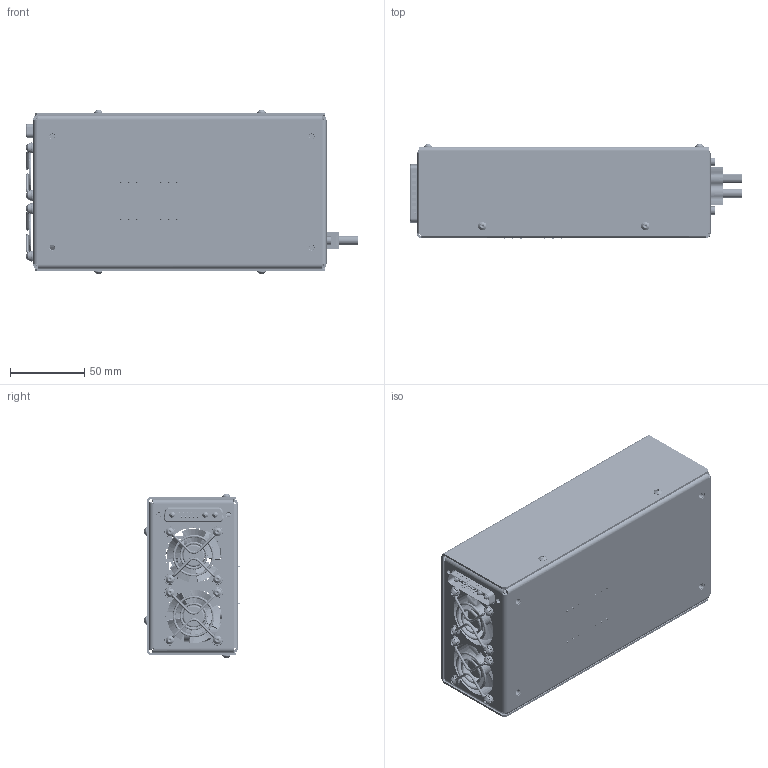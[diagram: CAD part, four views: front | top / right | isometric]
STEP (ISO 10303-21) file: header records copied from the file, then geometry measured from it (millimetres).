
FILE_DESCRIPTION (( 'STEP AP214' ), '1' );
FILE_NAME ('413.00.00.000-B01_PBZ-500.STEP', '2024-11-18T17:34:59', ( '' ), ( '' ), 'SwSTEP 2.0', 'SolidWorks 2018', '' );
FILE_SCHEMA (( 'AUTOMOTIVE_DESIGN' ));
Length unit declared in the file: millimetre
Products named in the file (19): 680M13W3103L201; Ãàéêà CN clinch nut M3 (2018); VP-CL-2HV-BU AWG 14 Ag; 妈眚 󉱲 ISO7380 (2018); ﾘ琺矜 ﾌ3 DIN125 (2018); 妈眚 󉱴 DIN912 (2018); HVPS800 revA; Âåíòèëÿòîð 40õ40õ20; 413.00.00.000-B01_PBZ-500; Ðåøåòêà 40õ40; 妈眚 󉱭2 ISO7380; Âòóëêà ðåçüá. íåïîëíîïðîõ. BSO-M3-8 ZI (2018)_BSO-M3-8-ZI; ﾘ琺矜 ﾌ3 DIN127 (2018); 413.00.00.001-A01_Êðûøêà_-00; Âòóëêà ðåçüá. íåïîëíîïðîõ. BSO-M3-18 ZI; Ãàéêà Ì3 DIN934; 413.00.00.100-B01_扻豵鵨; 413.00.00.101-A01_扻豵鵨; Ãàéêà CN clinch nut M4 (2018)
Assembly tree (87 placements, depth 3):
  413.00.00.000-B01_PBZ-500
    413.00.00.100-B01_扻豵鵨
      413.00.00.101-A01_扻豵鵨
      Âåíòèëÿòîð 40õ40õ20  x2
      Ðåøåòêà 40õ40  x2
      Âòóëêà ðåçüá. íåïîëíîïðîõ. BSO-M3-8 ZI (2018)_BSO-M3-8-ZI  x4
      Ãàéêà CN clinch nut M4 (2018)  x5
      Ãàéêà CN clinch nut M3 (2018)  x8
      ﾘ琺矜 ﾌ3 DIN125 (2018)  x8
      妈眚 󉱭2 ISO7380  x8
      Âòóëêà ðåçüá. íåïîëíîïðîõ. BSO-M3-18 ZI  x8
      ﾘ琺矜 ﾌ3 DIN127 (2018)  x8
    HVPS800 revA
    413.00.00.001-A01_Êðûøêà_-00
    妈眚 󉱴 DIN912 (2018)  x6
    ﾘ琺矜 ﾌ3 DIN125 (2018)  x6
    ﾘ琺矜 ﾌ3 DIN127 (2018)  x6
    Ãàéêà Ì3 DIN934  x2
    妈眚 󉱲 ISO7380 (2018)  x8
    680M13W3103L201
    VP-CL-2HV-BU AWG 14 Ag
Bounding box: 224 x 64.1 x 110.3 mm (x, y, z)
Volume: 278803.2 mm3; surface area: 331371.4 mm2
Topology: 336 solids, 356 shells, 17411 faces, 43854 edges, 27116 vertices
Faces by surface type: plane 7031, cylinder 4954, bspline 4873, cone 360, torus 161, sphere 32
Entity records: 657404 total; most frequent: CARTESIAN_POINT 178428, ORIENTED_EDGE 75030, DIRECTION 53280, EDGE_CURVE 37547, VERTEX_POINT 23571, VECTOR 20728, LINE 20728, EDGE_LOOP 16539
